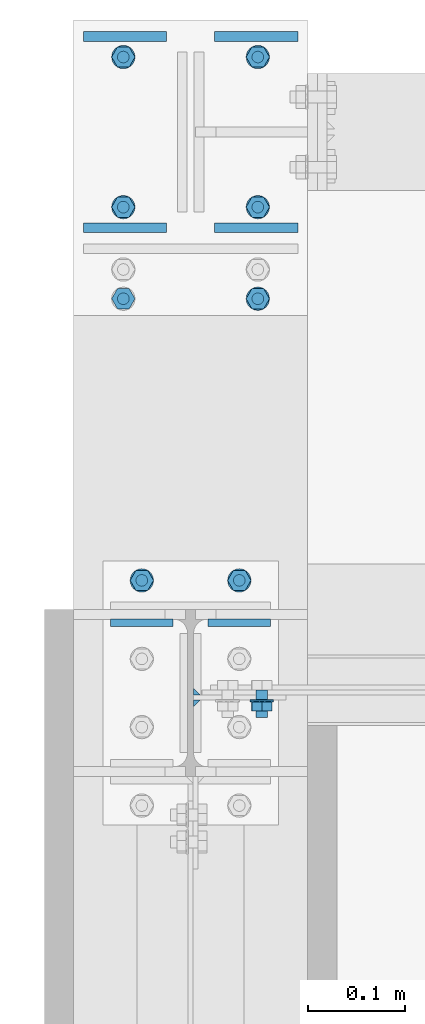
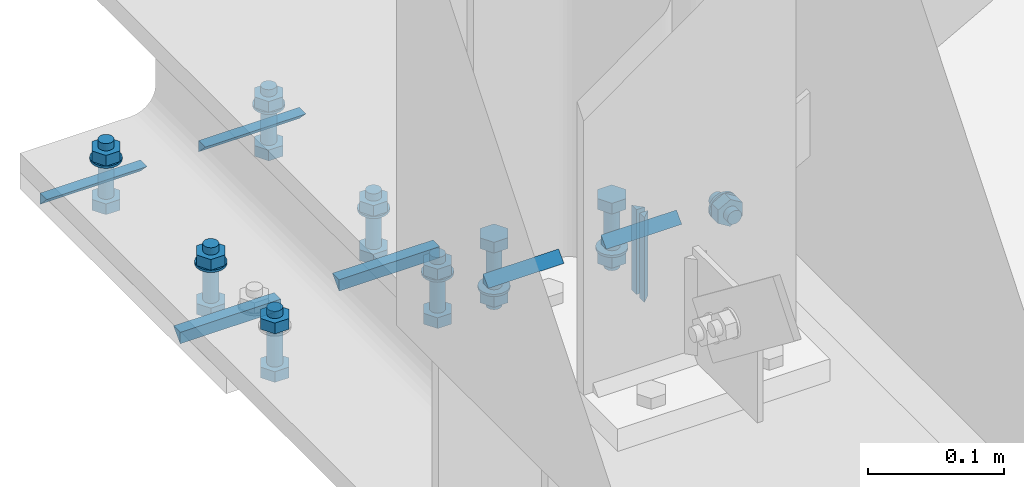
# One storey, part 41 of 66: 34 mechanical fasteners, 14 fasteners.
"""IFC4 building model written with IfcOpenShell, lengths in metres."""

from ifc_helpers import new_model, si_unit, frame, origin_with_axes, place, context, project, spatial, polyline, outline, extrude, type_object, element, save


model = new_model("IFC4")

# Units and contexts
model_context = context("Model", 3, precision=1e-05, world=origin_with_axes())
ifc_project = project(units=[si_unit("LENGTHUNIT", "METRE"), si_unit("AREAUNIT", "SQUARE_METRE"), si_unit("VOLUMEUNIT", "CUBIC_METRE"), si_unit("MASSUNIT", "GRAM", prefix="KILO"), si_unit("TIMEUNIT", "SECOND"), si_unit("PLANEANGLEUNIT", "RADIAN"), si_unit("SOLIDANGLEUNIT", "STERADIAN"), si_unit("THERMODYNAMICTEMPERATUREUNIT", "DEGREE_CELSIUS")], contexts=[model_context])

# Site, building, storey
placement_1 = place(None, origin_with_axes())
site = spatial("IfcSite", under=ifc_project, at=placement_1, Name="Italia", CompositionType="ELEMENT")
building = spatial("IfcBuilding", under=site, at=placement_1, Name="Uffici", CompositionType="ELEMENT")
storey_placement = place(None, frame((0.0, 0.0, 3.299999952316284), z_axis=(0.0, 0.0, 1.0), x_axis=(1.0, 0.0, 0.0)))
storey = spatial("IfcBuildingStorey", under=building, at=storey_placement, Name="Storey 1", CompositionType="ELEMENT", Elevation=3.299999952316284)

# Fasteners
fastener_type_1 = type_object("IfcFastenerType", Name="Collegamento 0106_0206", PredefinedType="WELD")
placement_2 = place(placement_1, origin_with_axes())
fastener_1_placement = place(placement_2, origin_with_axes())
element("IfcFastener", 1, at=fastener_1_placement, inside=storey, type_object=fastener_type_1, Name="Collegamento 0106_0206", context=model_context, shape_type="SweptSolid", body=[
    extrude(outline(polyline([(0.0, 0.0), (0.00792837, 0.00817347), (0.00792837, 0.0), (0.0, 0.0)])), frame((0.01795, 4.88262, 3.31995), z_axis=(1.0, 0.0, 0.0), x_axis=(0.0, 1.0, 0.0)), (0.0, 0.0, 1.0), 0.0641),
])
fastener_type_2 = type_object("IfcFastenerType", Name="Collegamento 0106_0206", PredefinedType="WELD")
fastener_2_placement = place(placement_2, origin_with_axes())
element("IfcFastener", 2, at=fastener_2_placement, inside=storey, type_object=fastener_type_2, Name="Collegamento 0106_0206", context=model_context, shape_type="SweptSolid", body=[
    extrude(outline(polyline([(0.0, 0.0), (0.00792837, 0.00817347), (0.00792837, 0.0), (0.0, 0.0)])), frame((-0.08205, 4.88262, 3.31995), z_axis=(1.0, 0.0, 0.0), x_axis=(0.0, 1.0, 0.0)), (0.0, 0.0, 1.0), 0.0641),
])
fastener_type_3 = type_object("IfcFastenerType", Name="Collegamento 0106_0206", PredefinedType="WELD")
fastener_3_placement = place(placement_2, origin_with_axes())
element("IfcFastener", 3, at=fastener_3_placement, inside=storey, type_object=fastener_type_3, Name="Collegamento 0106_0206", context=model_context, shape_type="SweptSolid", body=[
    extrude(outline(polyline([(0.0, 0.0), (0.00792837, 0.00817347), (0.00792837, 0.0), (0.0, 0.0)])), frame((0.01795, 4.88262, 3.31995), z_axis=(1.0, 0.0, 0.0), x_axis=(0.0, 1.0, 0.0)), (0.0, 0.0, 1.0), 0.0641),
])
fastener_type_4 = type_object("IfcFastenerType", Name="Collegamento 0106_0206", PredefinedType="WELD")
fastener_4_placement = place(placement_2, origin_with_axes())
element("IfcFastener", 4, at=fastener_4_placement, inside=storey, type_object=fastener_type_4, Name="Collegamento 0106_0206", context=model_context, shape_type="SweptSolid", body=[
    extrude(outline(polyline([(0.0, 0.0), (0.00792837, 0.00817347), (0.00792837, 0.0), (0.0, 0.0)])), frame((-0.08205, 4.88262, 3.31995), z_axis=(1.0, 0.0, 0.0), x_axis=(0.0, 1.0, 0.0)), (0.0, 0.0, 1.0), 0.0641),
])

# Mechanical fasteners
mechanical_fastener_type_1 = type_object("IfcMechanicalFastenerType", Name="Collegamento 0106_0206", PredefinedType="BOLT")
mechanical_fastener_1_placement = place(placement_2, origin_with_axes())
element("IfcMechanicalFastener", 5, at=mechanical_fastener_1_placement, inside=storey, type_object=mechanical_fastener_type_1, Name="Collegamento 0106_0206", NominalDiameter=0.0119999, context=model_context, shape_type="SweptSolid", body=[
    extrude(outline(polyline([(0.0, 0.0), (0.0, 0.012), (0.0103922, 0.018), (0.0207844, 0.012), (0.0207844, 0.0), (0.0103922, -0.006), (0.0, 0.0)])), frame((-0.044, 4.91961, 3.32), z_axis=(0.0, 0.0, 1.0), x_axis=(0.0, 1.0, 0.0)), (0.0, 0.0, 1.0), 0.00959992),
])
mechanical_fastener_type_2 = type_object("IfcMechanicalFastenerType", Name="Collegamento 0106_0206", PredefinedType="BOLT")
mechanical_fastener_2_placement = place(placement_2, origin_with_axes())
element("IfcMechanicalFastener", 6, at=mechanical_fastener_2_placement, inside=storey, type_object=mechanical_fastener_type_2, Name="Collegamento 0106_0206", NominalDiameter=0.012, context=model_context, shape_type="SweptSolid", body=[
    extrude(outline(polyline([(0.0, 0.0), (-0.000204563, -0.00155291), (-0.000803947, -0.003), (-0.00175762, -0.00424264), (-0.00300026, -0.00519615), (-0.00444698, -0.00579556), (-0.00600004, -0.006), (-0.0075531, -0.00579555), (-0.00899982, -0.00519615), (-0.0102425, -0.00424264), (-0.0111961, -0.003), (-0.0117955, -0.00155291), (-0.0120001, 0.0), (-0.0117955, 0.00155291), (-0.0111961, 0.003), (-0.0102425, 0.00424264), (-0.00899982, 0.00519615), (-0.0075531, 0.00579556), (-0.00600004, 0.006), (-0.00444698, 0.00579556), (-0.00300026, 0.00519615), (-0.00175762, 0.00424264), (-0.000803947, 0.003), (-0.000204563, 0.00155291), (0.0, 0.0)])), frame((-0.05, 4.936, 3.265), z_axis=(0.0, 0.0, 1.0), x_axis=(0.0, 1.0, 0.0)), (0.0, 0.0, 1.0), 0.0550001),
])
mechanical_fastener_type_3 = type_object("IfcMechanicalFastenerType", Name="Collegamento 0106_0206", PredefinedType="BOLT")
mechanical_fastener_3_placement = place(placement_2, origin_with_axes())
element("IfcMechanicalFastener", 7, at=mechanical_fastener_3_placement, inside=storey, type_object=mechanical_fastener_type_3, Name="Collegamento 0106_0206", NominalDiameter=0.0119999, context=model_context, shape_type="SweptSolid", body=[
    extrude(outline(polyline([(0.0, 0.0), (0.0, 0.012), (0.0103922, 0.018), (0.0207844, 0.012), (0.0207844, 0.0), (0.0103922, -0.006), (0.0, 0.0)])), frame((-0.044, 4.91961, 3.2714), z_axis=(0.0, 0.0, 1.0), x_axis=(0.0, 1.0, 0.0)), (0.0, 0.0, 1.0), 0.00959992),
])
mechanical_fastener_type_4 = type_object("IfcMechanicalFastenerType", Name="Collegamento 0106_0206", PredefinedType="BOLT")
mechanical_fastener_4_placement = place(placement_2, origin_with_axes())
element("IfcMechanicalFastener", 8, at=mechanical_fastener_4_placement, inside=storey, type_object=mechanical_fastener_type_4, Name="Collegamento 0106_0206", NominalDiameter=0.024, context=model_context, shape_type="SweptSolid", body=[
    extrude(outline(polyline([(0.0, 0.0), (-0.000409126, -0.00310583), (-0.00160789, -0.006), (-0.00351477, -0.00848528), (-0.00600004, -0.0103923), (-0.00889444, -0.0115911), (-0.0120001, -0.012), (-0.0151057, -0.0115911), (-0.0180001, -0.0103923), (-0.0204854, -0.00848528), (-0.0223923, -0.006), (-0.023591, -0.00310583), (-0.0240002, 0.0), (-0.023591, 0.00310583), (-0.0223923, 0.006), (-0.0204854, 0.00848528), (-0.0180001, 0.0103923), (-0.0151057, 0.0115911), (-0.0120001, 0.012), (-0.00889444, 0.0115911), (-0.00600004, 0.0103923), (-0.00351477, 0.00848528), (-0.00160789, 0.006), (-0.000409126, 0.00310583), (0.0, 0.0)])), frame((-0.05, 4.942, 3.281), z_axis=(0.0, 0.0, 1.0), x_axis=(0.0, 1.0, 0.0)), (0.0, 0.0, 1.0), 0.00200009),
])
mechanical_fastener_type_5 = type_object("IfcMechanicalFastenerType", Name="Collegamento 0106_0206", PredefinedType="BOLT")
mechanical_fastener_5_placement = place(placement_2, origin_with_axes())
element("IfcMechanicalFastener", 9, at=mechanical_fastener_5_placement, inside=storey, type_object=mechanical_fastener_type_5, Name="Collegamento 0106_0206", NominalDiameter=0.0119999, context=model_context, shape_type="SweptSolid", body=[
    extrude(outline(polyline([(0.0, 0.0), (0.0, 0.012), (0.0103922, 0.018), (0.0207844, 0.012), (0.0207844, 0.0), (0.0103922, -0.006), (0.0, 0.0)])), frame((0.056, 4.91961, 3.32), z_axis=(0.0, 0.0, 1.0), x_axis=(0.0, 1.0, 0.0)), (0.0, 0.0, 1.0), 0.00959992),
])
mechanical_fastener_type_6 = type_object("IfcMechanicalFastenerType", Name="Collegamento 0106_0206", PredefinedType="BOLT")
mechanical_fastener_6_placement = place(placement_2, origin_with_axes())
element("IfcMechanicalFastener", 10, at=mechanical_fastener_6_placement, inside=storey, type_object=mechanical_fastener_type_6, Name="Collegamento 0106_0206", NominalDiameter=0.012, context=model_context, shape_type="SweptSolid", body=[
    extrude(outline(polyline([(0.0, 0.0), (-0.000204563, -0.00155291), (-0.000803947, -0.003), (-0.00175762, -0.00424264), (-0.00300026, -0.00519615), (-0.00444698, -0.00579556), (-0.00600004, -0.006), (-0.0075531, -0.00579555), (-0.00899982, -0.00519615), (-0.0102425, -0.00424264), (-0.0111961, -0.003), (-0.0117955, -0.00155291), (-0.0120001, 0.0), (-0.0117955, 0.00155291), (-0.0111961, 0.003), (-0.0102425, 0.00424264), (-0.00899982, 0.00519615), (-0.0075531, 0.00579556), (-0.00600004, 0.006), (-0.00444698, 0.00579556), (-0.00300026, 0.00519615), (-0.00175762, 0.00424264), (-0.000803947, 0.003), (-0.000204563, 0.00155291), (0.0, 0.0)])), frame((0.05, 4.936, 3.265), z_axis=(0.0, 0.0, 1.0), x_axis=(0.0, 1.0, 0.0)), (0.0, 0.0, 1.0), 0.0550001),
])
mechanical_fastener_type_7 = type_object("IfcMechanicalFastenerType", Name="Collegamento 0106_0206", PredefinedType="BOLT")
mechanical_fastener_7_placement = place(placement_2, origin_with_axes())
element("IfcMechanicalFastener", 11, at=mechanical_fastener_7_placement, inside=storey, type_object=mechanical_fastener_type_7, Name="Collegamento 0106_0206", NominalDiameter=0.0119999, context=model_context, shape_type="SweptSolid", body=[
    extrude(outline(polyline([(0.0, 0.0), (0.0, 0.012), (0.0103922, 0.018), (0.0207844, 0.012), (0.0207844, 0.0), (0.0103922, -0.006), (0.0, 0.0)])), frame((0.056, 4.91961, 3.2714), z_axis=(0.0, 0.0, 1.0), x_axis=(0.0, 1.0, 0.0)), (0.0, 0.0, 1.0), 0.00959992),
])
mechanical_fastener_type_8 = type_object("IfcMechanicalFastenerType", Name="Collegamento 0106_0206", PredefinedType="BOLT")
mechanical_fastener_8_placement = place(placement_2, origin_with_axes())
element("IfcMechanicalFastener", 12, at=mechanical_fastener_8_placement, inside=storey, type_object=mechanical_fastener_type_8, Name="Collegamento 0106_0206", NominalDiameter=0.024, context=model_context, shape_type="SweptSolid", body=[
    extrude(outline(polyline([(0.0, 0.0), (-0.000409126, -0.00310583), (-0.00160789, -0.006), (-0.00351477, -0.00848528), (-0.00600004, -0.0103923), (-0.00889444, -0.0115911), (-0.0120001, -0.012), (-0.0151057, -0.0115911), (-0.0180001, -0.0103923), (-0.0204854, -0.00848528), (-0.0223923, -0.006), (-0.023591, -0.00310583), (-0.0240002, 0.0), (-0.023591, 0.00310583), (-0.0223923, 0.006), (-0.0204854, 0.00848528), (-0.0180001, 0.0103923), (-0.0151057, 0.0115911), (-0.0120001, 0.012), (-0.00889444, 0.0115911), (-0.00600004, 0.0103923), (-0.00351477, 0.00848528), (-0.00160789, 0.006), (-0.000409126, 0.00310583), (0.0, 0.0)])), frame((0.05, 4.942, 3.281), z_axis=(0.0, 0.0, 1.0), x_axis=(0.0, 1.0, 0.0)), (0.0, 0.0, 1.0), 0.00200009),
])
mechanical_fastener_type_9 = type_object("IfcMechanicalFastenerType", Name="Collegamento 0106_0207", PredefinedType="BOLT")
mechanical_fastener_9_placement = place(placement_2, origin_with_axes())
element("IfcMechanicalFastener", 13, at=mechanical_fastener_9_placement, inside=storey, type_object=mechanical_fastener_type_9, Name="Collegamento 0106_0207", NominalDiameter=0.012, context=model_context, shape_type="SweptSolid", body=[
    extrude(outline(polyline([(0.0, 0.0), (-0.000204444, -0.00155282), (-0.000803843, -0.00300002), (-0.00175735, -0.00424266), (-0.003, -0.00519609), (-0.00444708, -0.00579548), (-0.006, -0.00600004), (-0.00755291, -0.00579548), (-0.009, -0.00519609), (-0.0102426, -0.00424266), (-0.0111962, -0.00300002), (-0.0117956, -0.00155282), (-0.012, 0.0), (-0.0117956, 0.00155282), (-0.0111962, 0.00300002), (-0.0102426, 0.00424266), (-0.009, 0.00519609), (-0.00755291, 0.00579548), (-0.006, 0.00600004), (-0.00444708, 0.00579548), (-0.003, 0.00519609), (-0.00175735, 0.00424266), (-0.000803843, 0.00300002), (-0.000204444, 0.00155282), (0.0, 0.0)])), frame((0.0670674, 4.7895, 3.38584), z_axis=(0.0, 1.0, 0.0), x_axis=(-1.0, 0.0, 0.0)), (0.0, 0.0, 1.0), 0.0279999),
])
mechanical_fastener_type_10 = type_object("IfcMechanicalFastenerType", Name="Collegamento 0106_0207", PredefinedType="BOLT")
mechanical_fastener_10_placement = place(placement_2, origin_with_axes())
element("IfcMechanicalFastener", 14, at=mechanical_fastener_10_placement, inside=storey, type_object=mechanical_fastener_type_10, Name="Collegamento 0106_0207", NominalDiameter=0.0119999, context=model_context, shape_type="SweptSolid", body=[
    extrude(outline(polyline([(0.0, 0.0), (0.0105101, -0.00579095), (0.0207805, 0.000415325), (0.0205407, 0.012413), (0.0100306, 0.0182042), (-0.000239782, 0.0119977), (0.0, 0.0)])), frame((0.0833377, 4.7959, 3.37964), z_axis=(0.0, 1.0, 0.0), x_axis=(-1.0, 0.0, 0.0)), (0.0, 0.0, 1.0), 0.00960016),
])
mechanical_fastener_type_11 = type_object("IfcMechanicalFastenerType", Name="Collegamento 0106_0207", PredefinedType="BOLT")
mechanical_fastener_11_placement = place(placement_2, origin_with_axes())
element("IfcMechanicalFastener", 15, at=mechanical_fastener_11_placement, inside=storey, type_object=mechanical_fastener_type_11, Name="Collegamento 0106_0207", NominalDiameter=0.024, context=model_context, shape_type="SweptSolid", body=[
    extrude(outline(polyline([(0.0, 0.0), (-0.000408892, -0.00310588), (-0.0016077, -0.00600004), (-0.00351472, -0.00848532), (-0.006, -0.0103922), (-0.00889418, -0.0115912), (-0.012, -0.0120001), (-0.0151058, -0.0115912), (-0.018, -0.0103922), (-0.0204853, -0.00848532), (-0.0223923, -0.00600004), (-0.0235911, -0.00310588), (-0.024, 0.0), (-0.0235911, 0.00310588), (-0.0223923, 0.00600004), (-0.0204853, 0.00848532), (-0.018, 0.0103922), (-0.0151058, 0.0115912), (-0.012, 0.0120001), (-0.00889418, 0.0115912), (-0.006, 0.0103922), (-0.00351471, 0.00848532), (-0.00160769, 0.00600004), (-0.000408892, 0.00310588), (0.0, 0.0)])), frame((0.0610674, 4.8055, 3.38584), z_axis=(0.0, 1.0, 0.0), x_axis=(-1.0, 0.0, 0.0)), (0.0, 0.0, 1.0), 0.00199986),
])

# Fasteners
fastener_type_5 = type_object("IfcFastenerType", Name="Collegamento 0106_0207", PredefinedType="WELD")
fastener_5_placement = place(placement_2, origin_with_axes())
element("IfcFastener", 16, at=fastener_5_placement, inside=storey, type_object=fastener_type_5, Name="Collegamento 0106_0207", context=model_context, shape_type="SweptSolid", body=[
    extrude(outline(polyline([(0.0, 0.0), (0.00695801, 0.00717336), (0.00695801, 0.0), (0.0, 0.0)])), frame((0.00295001, 4.80059, 3.40328), z_axis=(-2.38644162e-07, 0.0, -1.0), x_axis=(0.0, 1.0, 0.0)), (0.0, 0.0, 1.0), 0.0760999),
])
fastener_type_6 = type_object("IfcFastenerType", Name="Collegamento 0106_0207", PredefinedType="WELD")
fastener_6_placement = place(placement_2, origin_with_axes())
element("IfcFastener", 17, at=fastener_6_placement, inside=storey, type_object=fastener_type_6, Name="Collegamento 0106_0207", context=model_context, shape_type="SweptSolid", body=[
    extrude(outline(polyline([(0.0, 0.0), (-0.00695801, -0.00717336), (-0.00695801, 0.0), (0.0, 0.0)])), frame((0.00294999, 4.81941, 3.32718), z_axis=(2.38644162e-07, 0.0, 1.0), x_axis=(0.0, 1.0, 0.0)), (0.0, 0.0, 1.0), 0.0760999),
])
fastener_type_7 = type_object("IfcFastenerType", Name="Collegamenti 0111_0011 0112_0012 0113_0013 0114_0014 0115_0015", PredefinedType="WELD")
fastener_7_placement = place(placement_2, origin_with_axes())
element("IfcFastener", 18, at=fastener_7_placement, inside=storey, type_object=fastener_type_7, Name="Collegamenti 0111_0011 0112_0012 0113_0013 0114_0014 0115_0015", context=model_context, shape_type="SweptSolid", body=[
    extrude(outline(polyline([(0.0, 0.0), (-0.00986814, -0.0101733), (-0.00986814, 0.0), (0.0, 0.0)])), frame((0.11005, 5.48318, 3.04505), z_axis=(-1.0, 0.0, 0.0), x_axis=(0.0, -1.0, 0.0)), (0.0, 0.0, 1.0), 0.08535),
])
fastener_type_8 = type_object("IfcFastenerType", Name="Collegamenti 0111_0011 0112_0012 0113_0013 0114_0014 0115_0015", PredefinedType="WELD")
fastener_8_placement = place(placement_2, origin_with_axes())
element("IfcFastener", 19, at=fastener_8_placement, inside=storey, type_object=fastener_type_8, Name="Collegamenti 0111_0011 0112_0012 0113_0013 0114_0014 0115_0015", context=model_context, shape_type="SweptSolid", body=[
    extrude(outline(polyline([(0.0, 0.0), (-0.00986814, -0.0101733), (-0.00986814, 0.0), (0.0, 0.0)])), frame((0.0247, 5.29682, 3.04505), z_axis=(1.0, 0.0, 0.0), x_axis=(0.0, 1.0, 0.0)), (0.0, 0.0, 1.0), 0.08535),
])
fastener_type_9 = type_object("IfcFastenerType", Name="Collegamenti 0111_0011 0112_0012 0113_0013 0114_0014 0115_0015", PredefinedType="WELD")
fastener_9_placement = place(placement_2, origin_with_axes())
element("IfcFastener", 20, at=fastener_9_placement, inside=storey, type_object=fastener_type_9, Name="Collegamenti 0111_0011 0112_0012 0113_0013 0114_0014 0115_0015", context=model_context, shape_type="SweptSolid", body=[
    extrude(outline(polyline([(0.0, 0.0), (-0.00986814, -0.0101733), (-0.00986814, 0.0), (0.0, 0.0)])), frame((-0.11005, 5.29682, 3.04505), z_axis=(1.0, 0.0, 0.0), x_axis=(0.0, 1.0, 0.0)), (0.0, 0.0, 1.0), 0.08535),
])
fastener_type_10 = type_object("IfcFastenerType", Name="Collegamenti 0111_0011 0112_0012 0113_0013 0114_0014 0115_0015", PredefinedType="WELD")
fastener_10_placement = place(placement_2, origin_with_axes())
element("IfcFastener", 21, at=fastener_10_placement, inside=storey, type_object=fastener_type_10, Name="Collegamenti 0111_0011 0112_0012 0113_0013 0114_0014 0115_0015", context=model_context, shape_type="SweptSolid", body=[
    extrude(outline(polyline([(0.0, 0.0), (-0.00986814, -0.0101733), (-0.00986814, 0.0), (0.0, 0.0)])), frame((-0.0247, 5.48318, 3.04505), z_axis=(-1.0, 0.0, 0.0), x_axis=(0.0, -1.0, 0.0)), (0.0, 0.0, 1.0), 0.08535),
])
fastener_type_11 = type_object("IfcFastenerType", Name="Collegamenti 0111_0011 0112_0012 0113_0013 0114_0014 0115_0015", PredefinedType="WELD")
fastener_11_placement = place(placement_2, origin_with_axes())
element("IfcFastener", 22, at=fastener_11_placement, inside=storey, type_object=fastener_type_11, Name="Collegamenti 0111_0011 0112_0012 0113_0013 0114_0014 0115_0015", context=model_context, shape_type="SweptSolid", body=[
    extrude(outline(polyline([(0.0, 0.0), (-0.00986814, -0.0101733), (-0.00986814, 0.0), (0.0, 0.0)])), frame((0.11005, 5.48318, 3.04505), z_axis=(-1.0, 0.0, 0.0), x_axis=(0.0, -1.0, 0.0)), (0.0, 0.0, 1.0), 0.08535),
])
fastener_type_12 = type_object("IfcFastenerType", Name="Collegamenti 0111_0011 0112_0012 0113_0013 0114_0014 0115_0015", PredefinedType="WELD")
fastener_12_placement = place(placement_2, origin_with_axes())
element("IfcFastener", 23, at=fastener_12_placement, inside=storey, type_object=fastener_type_12, Name="Collegamenti 0111_0011 0112_0012 0113_0013 0114_0014 0115_0015", context=model_context, shape_type="SweptSolid", body=[
    extrude(outline(polyline([(0.0, 0.0), (-0.00986814, -0.0101733), (-0.00986814, 0.0), (0.0, 0.0)])), frame((0.0247, 5.29682, 3.04505), z_axis=(1.0, 0.0, 0.0), x_axis=(0.0, 1.0, 0.0)), (0.0, 0.0, 1.0), 0.08535),
])
fastener_type_13 = type_object("IfcFastenerType", Name="Collegamenti 0111_0011 0112_0012 0113_0013 0114_0014 0115_0015", PredefinedType="WELD")
fastener_13_placement = place(placement_2, origin_with_axes())
element("IfcFastener", 24, at=fastener_13_placement, inside=storey, type_object=fastener_type_13, Name="Collegamenti 0111_0011 0112_0012 0113_0013 0114_0014 0115_0015", context=model_context, shape_type="SweptSolid", body=[
    extrude(outline(polyline([(0.0, 0.0), (-0.00986814, -0.0101733), (-0.00986814, 0.0), (0.0, 0.0)])), frame((-0.11005, 5.29682, 3.04505), z_axis=(1.0, 0.0, 0.0), x_axis=(0.0, 1.0, 0.0)), (0.0, 0.0, 1.0), 0.08535),
])
fastener_type_14 = type_object("IfcFastenerType", Name="Collegamenti 0111_0011 0112_0012 0113_0013 0114_0014 0115_0015", PredefinedType="WELD")
fastener_14_placement = place(placement_2, origin_with_axes())
element("IfcFastener", 25, at=fastener_14_placement, inside=storey, type_object=fastener_type_14, Name="Collegamenti 0111_0011 0112_0012 0113_0013 0114_0014 0115_0015", context=model_context, shape_type="SweptSolid", body=[
    extrude(outline(polyline([(0.0, 0.0), (-0.00986814, -0.0101733), (-0.00986814, 0.0), (0.0, 0.0)])), frame((-0.0247, 5.48318, 3.04505), z_axis=(-1.0, 0.0, 0.0), x_axis=(0.0, -1.0, 0.0)), (0.0, 0.0, 1.0), 0.08535),
])

# Mechanical fasteners
mechanical_fastener_type_12 = type_object("IfcMechanicalFastenerType", Name="Collegamenti 0111_0011 0112_0012 0113_0013 0114_0014 0115_0015", PredefinedType="BOLT")
mechanical_fastener_12_placement = place(placement_2, origin_with_axes())
element("IfcMechanicalFastener", 26, at=mechanical_fastener_12_placement, inside=storey, type_object=mechanical_fastener_type_12, Name="Collegamenti 0111_0011 0112_0012 0113_0013 0114_0014 0115_0015", NominalDiameter=0.0119999, context=model_context, shape_type="SweptSolid", body=[
    extrude(outline(polyline([(0.0, 0.0), (0.0, 0.012), (0.0103922, 0.018), (0.0207849, 0.012), (0.0207849, 0.0), (0.0103922, -0.006), (0.0, 0.0)])), frame((0.063, 5.30261, 3.045), z_axis=(0.0, 0.0, -1.0), x_axis=(0.0, 1.0, 0.0)), (0.0, 0.0, 1.0), 0.00959992),
])
mechanical_fastener_type_13 = type_object("IfcMechanicalFastenerType", Name="Collegamenti 0111_0011 0112_0012 0113_0013 0114_0014 0115_0015", PredefinedType="BOLT")
mechanical_fastener_13_placement = place(placement_2, origin_with_axes())
element("IfcMechanicalFastener", 27, at=mechanical_fastener_13_placement, inside=storey, type_object=mechanical_fastener_type_13, Name="Collegamenti 0111_0011 0112_0012 0113_0013 0114_0014 0115_0015", NominalDiameter=0.012, context=model_context, shape_type="SweptSolid", body=[
    extrude(outline(polyline([(0.0, 0.0), (-0.000204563, -0.00155292), (-0.000803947, -0.003), (-0.00175762, -0.00424264), (-0.00300026, -0.00519615), (-0.00444698, -0.00579555), (-0.00600004, -0.006), (-0.0075531, -0.00579555), (-0.00899982, -0.00519615), (-0.0102425, -0.00424264), (-0.0111961, -0.003), (-0.0117955, -0.00155292), (-0.0120001, 0.0), (-0.0117955, 0.00155292), (-0.0111961, 0.003), (-0.0102425, 0.00424264), (-0.00899982, 0.00519615), (-0.0075531, 0.00579555), (-0.00600004, 0.006), (-0.00444698, 0.00579555), (-0.00300026, 0.00519615), (-0.00175762, 0.00424264), (-0.000803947, 0.003), (-0.000204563, 0.00155291), (0.0, 0.0)])), frame((0.069, 5.319, 3.095), z_axis=(0.0, 0.0, -1.0), x_axis=(0.0, 1.0, 0.0)), (0.0, 0.0, 1.0), 0.0500002),
])
mechanical_fastener_type_14 = type_object("IfcMechanicalFastenerType", Name="Collegamenti 0111_0011 0112_0012 0113_0013 0114_0014 0115_0015", PredefinedType="BOLT")
mechanical_fastener_14_placement = place(placement_2, origin_with_axes())
element("IfcMechanicalFastener", 28, at=mechanical_fastener_14_placement, inside=storey, type_object=mechanical_fastener_type_14, Name="Collegamenti 0111_0011 0112_0012 0113_0013 0114_0014 0115_0015", NominalDiameter=0.0119999, context=model_context, shape_type="SweptSolid", body=[
    extrude(outline(polyline([(0.0, 0.0), (0.0, 0.012), (0.0103922, 0.018), (0.0207849, 0.012), (0.0207849, 0.0), (0.0103922, -0.006), (0.0, 0.0)])), frame((0.063, 5.30261, 3.0886), z_axis=(0.0, 0.0, -1.0), x_axis=(0.0, 1.0, 0.0)), (0.0, 0.0, 1.0), 0.00959992),
])
mechanical_fastener_type_15 = type_object("IfcMechanicalFastenerType", Name="Collegamenti 0111_0011 0112_0012 0113_0013 0114_0014 0115_0015", PredefinedType="BOLT")
mechanical_fastener_15_placement = place(placement_2, origin_with_axes())
element("IfcMechanicalFastener", 29, at=mechanical_fastener_15_placement, inside=storey, type_object=mechanical_fastener_type_15, Name="Collegamenti 0111_0011 0112_0012 0113_0013 0114_0014 0115_0015", NominalDiameter=0.024, context=model_context, shape_type="SweptSolid", body=[
    extrude(outline(polyline([(0.0, 0.0), (-0.000409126, -0.00310583), (-0.00160789, -0.006), (-0.00351477, -0.00848528), (-0.00600004, -0.0103923), (-0.00889444, -0.0115911), (-0.0120001, -0.012), (-0.0151057, -0.0115911), (-0.0180001, -0.0103923), (-0.0204854, -0.00848528), (-0.0223923, -0.006), (-0.023591, -0.00310583), (-0.0240002, 0.0), (-0.023591, 0.00310583), (-0.0223923, 0.006), (-0.0204854, 0.00848528), (-0.0180001, 0.0103923), (-0.0151057, 0.0115911), (-0.0120001, 0.012), (-0.00889444, 0.0115911), (-0.00600004, 0.0103923), (-0.00351477, 0.00848528), (-0.00160789, 0.006), (-0.000409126, 0.00310583), (0.0, 0.0)])), frame((0.069, 5.325, 3.079), z_axis=(0.0, 0.0, -1.0), x_axis=(0.0, 1.0, 0.0)), (0.0, 0.0, 1.0), 0.00200009),
])
mechanical_fastener_type_16 = type_object("IfcMechanicalFastenerType", Name="Collegamenti 0111_0011 0112_0012 0113_0013 0114_0014 0115_0015", PredefinedType="BOLT")
mechanical_fastener_16_placement = place(placement_2, origin_with_axes())
element("IfcMechanicalFastener", 30, at=mechanical_fastener_16_placement, inside=storey, type_object=mechanical_fastener_type_16, Name="Collegamenti 0111_0011 0112_0012 0113_0013 0114_0014 0115_0015", NominalDiameter=0.0119999, context=model_context, shape_type="SweptSolid", body=[
    extrude(outline(polyline([(0.0, 0.0), (0.0, 0.012), (0.0103922, 0.018), (0.0207849, 0.012), (0.0207849, 0.0), (0.0103922, -0.006), (0.0, 0.0)])), frame((-0.075, 5.30261, 3.045), z_axis=(0.0, 0.0, -1.0), x_axis=(0.0, 1.0, 0.0)), (0.0, 0.0, 1.0), 0.00959992),
])
mechanical_fastener_type_17 = type_object("IfcMechanicalFastenerType", Name="Collegamenti 0111_0011 0112_0012 0113_0013 0114_0014 0115_0015", PredefinedType="BOLT")
mechanical_fastener_17_placement = place(placement_2, origin_with_axes())
element("IfcMechanicalFastener", 31, at=mechanical_fastener_17_placement, inside=storey, type_object=mechanical_fastener_type_17, Name="Collegamenti 0111_0011 0112_0012 0113_0013 0114_0014 0115_0015", NominalDiameter=0.012, context=model_context, shape_type="SweptSolid", body=[
    extrude(outline(polyline([(0.0, 0.0), (-0.000204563, -0.00155292), (-0.000803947, -0.003), (-0.00175762, -0.00424264), (-0.00300026, -0.00519615), (-0.00444698, -0.00579555), (-0.00600004, -0.006), (-0.0075531, -0.00579555), (-0.00899982, -0.00519615), (-0.0102425, -0.00424264), (-0.0111961, -0.003), (-0.0117955, -0.00155292), (-0.0120001, 0.0), (-0.0117955, 0.00155292), (-0.0111961, 0.003), (-0.0102425, 0.00424264), (-0.00899982, 0.00519615), (-0.0075531, 0.00579555), (-0.00600004, 0.006), (-0.00444698, 0.00579555), (-0.00300026, 0.00519615), (-0.00175762, 0.00424264), (-0.000803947, 0.003), (-0.000204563, 0.00155291), (0.0, 0.0)])), frame((-0.069, 5.319, 3.095), z_axis=(0.0, 0.0, -1.0), x_axis=(0.0, 1.0, 0.0)), (0.0, 0.0, 1.0), 0.0500002),
])
mechanical_fastener_type_18 = type_object("IfcMechanicalFastenerType", Name="Collegamenti 0111_0011 0112_0012 0113_0013 0114_0014 0115_0015", PredefinedType="BOLT")
mechanical_fastener_18_placement = place(placement_2, origin_with_axes())
element("IfcMechanicalFastener", 32, at=mechanical_fastener_18_placement, inside=storey, type_object=mechanical_fastener_type_18, Name="Collegamenti 0111_0011 0112_0012 0113_0013 0114_0014 0115_0015", NominalDiameter=0.0119999, context=model_context, shape_type="SweptSolid", body=[
    extrude(outline(polyline([(0.0, 0.0), (0.0, 0.012), (0.0103922, 0.018), (0.0207849, 0.012), (0.0207849, 0.0), (0.0103922, -0.006), (0.0, 0.0)])), frame((-0.075, 5.30261, 3.0886), z_axis=(0.0, 0.0, -1.0), x_axis=(0.0, 1.0, 0.0)), (0.0, 0.0, 1.0), 0.00959992),
])
mechanical_fastener_type_19 = type_object("IfcMechanicalFastenerType", Name="Collegamenti 0111_0011 0112_0012 0113_0013 0114_0014 0115_0015", PredefinedType="BOLT")
mechanical_fastener_19_placement = place(placement_2, origin_with_axes())
element("IfcMechanicalFastener", 33, at=mechanical_fastener_19_placement, inside=storey, type_object=mechanical_fastener_type_19, Name="Collegamenti 0111_0011 0112_0012 0113_0013 0114_0014 0115_0015", NominalDiameter=0.024, context=model_context, shape_type="SweptSolid", body=[
    extrude(outline(polyline([(0.0, 0.0), (-0.000409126, -0.00310583), (-0.00160789, -0.006), (-0.00351477, -0.00848528), (-0.00600004, -0.0103923), (-0.00889444, -0.0115911), (-0.0120001, -0.012), (-0.0151057, -0.0115911), (-0.0180001, -0.0103923), (-0.0204854, -0.00848528), (-0.0223923, -0.006), (-0.023591, -0.00310583), (-0.0240002, 0.0), (-0.023591, 0.00310583), (-0.0223923, 0.006), (-0.0204854, 0.00848528), (-0.0180001, 0.0103923), (-0.0151057, 0.0115911), (-0.0120001, 0.012), (-0.00889444, 0.0115911), (-0.00600004, 0.0103923), (-0.00351477, 0.00848528), (-0.00160789, 0.006), (-0.000409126, 0.00310583), (0.0, 0.0)])), frame((-0.069, 5.325, 3.079), z_axis=(0.0, 0.0, -1.0), x_axis=(0.0, 1.0, 0.0)), (0.0, 0.0, 1.0), 0.00200009),
])
mechanical_fastener_type_20 = type_object("IfcMechanicalFastenerType", Name="Collegamenti 0111_0011 0112_0012 0113_0013 0114_0014 0115_0015", PredefinedType="BOLT")
mechanical_fastener_20_placement = place(placement_2, origin_with_axes())
element("IfcMechanicalFastener", 34, at=mechanical_fastener_20_placement, inside=storey, type_object=mechanical_fastener_type_20, Name="Collegamenti 0111_0011 0112_0012 0113_0013 0114_0014 0115_0015", NominalDiameter=0.0119999, context=model_context, shape_type="SweptSolid", body=[
    extrude(outline(polyline([(0.0, 0.0), (0.0, 0.012), (0.0103927, 0.018), (0.0207849, 0.012), (0.0207849, 0.0), (0.0103927, -0.006), (0.0, 0.0)])), frame((0.063, 5.45661, 3.045), z_axis=(0.0, 0.0, -1.0), x_axis=(0.0, 1.0, 0.0)), (0.0, 0.0, 1.0), 0.00959992),
])
mechanical_fastener_type_21 = type_object("IfcMechanicalFastenerType", Name="Collegamenti 0111_0011 0112_0012 0113_0013 0114_0014 0115_0015", PredefinedType="BOLT")
mechanical_fastener_21_placement = place(placement_2, origin_with_axes())
element("IfcMechanicalFastener", 35, at=mechanical_fastener_21_placement, inside=storey, type_object=mechanical_fastener_type_21, Name="Collegamenti 0111_0011 0112_0012 0113_0013 0114_0014 0115_0015", NominalDiameter=0.012, context=model_context, shape_type="SweptSolid", body=[
    extrude(outline(polyline([(0.0, 0.0), (-0.000204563, -0.00155292), (-0.000803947, -0.003), (-0.00175762, -0.00424264), (-0.00300026, -0.00519615), (-0.00444698, -0.00579555), (-0.00600004, -0.006), (-0.0075531, -0.00579555), (-0.00899982, -0.00519615), (-0.0102425, -0.00424264), (-0.0111961, -0.003), (-0.0117955, -0.00155292), (-0.0120001, 0.0), (-0.0117955, 0.00155292), (-0.0111961, 0.003), (-0.0102425, 0.00424264), (-0.00899982, 0.00519615), (-0.0075531, 0.00579555), (-0.00600004, 0.006), (-0.00444698, 0.00579555), (-0.00300026, 0.00519615), (-0.00175762, 0.00424264), (-0.000803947, 0.003), (-0.000204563, 0.00155291), (0.0, 0.0)])), frame((0.069, 5.473, 3.095), z_axis=(0.0, 0.0, -1.0), x_axis=(0.0, 1.0, 0.0)), (0.0, 0.0, 1.0), 0.0500002),
])
mechanical_fastener_type_22 = type_object("IfcMechanicalFastenerType", Name="Collegamenti 0111_0011 0112_0012 0113_0013 0114_0014 0115_0015", PredefinedType="BOLT")
mechanical_fastener_22_placement = place(placement_2, origin_with_axes())
element("IfcMechanicalFastener", 36, at=mechanical_fastener_22_placement, inside=storey, type_object=mechanical_fastener_type_22, Name="Collegamenti 0111_0011 0112_0012 0113_0013 0114_0014 0115_0015", NominalDiameter=0.0119999, context=model_context, shape_type="SweptSolid", body=[
    extrude(outline(polyline([(0.0, 0.0), (0.0, 0.012), (0.0103927, 0.018), (0.0207849, 0.012), (0.0207849, 0.0), (0.0103927, -0.006), (0.0, 0.0)])), frame((0.063, 5.45661, 3.0886), z_axis=(0.0, 0.0, -1.0), x_axis=(0.0, 1.0, 0.0)), (0.0, 0.0, 1.0), 0.00959992),
])
mechanical_fastener_type_23 = type_object("IfcMechanicalFastenerType", Name="Collegamenti 0111_0011 0112_0012 0113_0013 0114_0014 0115_0015", PredefinedType="BOLT")
mechanical_fastener_23_placement = place(placement_2, origin_with_axes())
element("IfcMechanicalFastener", 37, at=mechanical_fastener_23_placement, inside=storey, type_object=mechanical_fastener_type_23, Name="Collegamenti 0111_0011 0112_0012 0113_0013 0114_0014 0115_0015", NominalDiameter=0.024, context=model_context, shape_type="SweptSolid", body=[
    extrude(outline(polyline([(0.0, 0.0), (-0.000409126, -0.00310583), (-0.00160789, -0.006), (-0.00351477, -0.00848528), (-0.00600004, -0.0103923), (-0.00889444, -0.0115911), (-0.0120001, -0.012), (-0.0151057, -0.0115911), (-0.0180001, -0.0103923), (-0.0204854, -0.00848528), (-0.0223923, -0.006), (-0.023591, -0.00310583), (-0.0240002, 0.0), (-0.023591, 0.00310583), (-0.0223923, 0.006), (-0.0204854, 0.00848528), (-0.0180001, 0.0103923), (-0.0151057, 0.0115911), (-0.0120001, 0.012), (-0.00889444, 0.0115911), (-0.00600004, 0.0103923), (-0.00351477, 0.00848528), (-0.00160789, 0.006), (-0.000409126, 0.00310583), (0.0, 0.0)])), frame((0.069, 5.479, 3.079), z_axis=(0.0, 0.0, -1.0), x_axis=(0.0, 1.0, 0.0)), (0.0, 0.0, 1.0), 0.00200009),
])
mechanical_fastener_type_24 = type_object("IfcMechanicalFastenerType", Name="Collegamenti 0111_0011 0112_0012 0113_0013 0114_0014 0115_0015", PredefinedType="BOLT")
mechanical_fastener_24_placement = place(placement_2, origin_with_axes())
element("IfcMechanicalFastener", 38, at=mechanical_fastener_24_placement, inside=storey, type_object=mechanical_fastener_type_24, Name="Collegamenti 0111_0011 0112_0012 0113_0013 0114_0014 0115_0015", NominalDiameter=0.0119999, context=model_context, shape_type="SweptSolid", body=[
    extrude(outline(polyline([(0.0, 0.0), (0.0, 0.012), (0.0103927, 0.018), (0.0207849, 0.012), (0.0207849, 0.0), (0.0103927, -0.006), (0.0, 0.0)])), frame((-0.075, 5.45661, 3.045), z_axis=(0.0, 0.0, -1.0), x_axis=(0.0, 1.0, 0.0)), (0.0, 0.0, 1.0), 0.00959992),
])
mechanical_fastener_type_25 = type_object("IfcMechanicalFastenerType", Name="Collegamenti 0111_0011 0112_0012 0113_0013 0114_0014 0115_0015", PredefinedType="BOLT")
mechanical_fastener_25_placement = place(placement_2, origin_with_axes())
element("IfcMechanicalFastener", 39, at=mechanical_fastener_25_placement, inside=storey, type_object=mechanical_fastener_type_25, Name="Collegamenti 0111_0011 0112_0012 0113_0013 0114_0014 0115_0015", NominalDiameter=0.012, context=model_context, shape_type="SweptSolid", body=[
    extrude(outline(polyline([(0.0, 0.0), (-0.000204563, -0.00155292), (-0.000803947, -0.003), (-0.00175762, -0.00424264), (-0.00300026, -0.00519615), (-0.00444698, -0.00579555), (-0.00600004, -0.006), (-0.0075531, -0.00579555), (-0.00899982, -0.00519615), (-0.0102425, -0.00424264), (-0.0111961, -0.003), (-0.0117955, -0.00155292), (-0.0120001, 0.0), (-0.0117955, 0.00155292), (-0.0111961, 0.003), (-0.0102425, 0.00424264), (-0.00899982, 0.00519615), (-0.0075531, 0.00579555), (-0.00600004, 0.006), (-0.00444698, 0.00579555), (-0.00300026, 0.00519615), (-0.00175762, 0.00424264), (-0.000803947, 0.003), (-0.000204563, 0.00155291), (0.0, 0.0)])), frame((-0.069, 5.473, 3.095), z_axis=(0.0, 0.0, -1.0), x_axis=(0.0, 1.0, 0.0)), (0.0, 0.0, 1.0), 0.0500002),
])
mechanical_fastener_type_26 = type_object("IfcMechanicalFastenerType", Name="Collegamenti 0111_0011 0112_0012 0113_0013 0114_0014 0115_0015", PredefinedType="BOLT")
mechanical_fastener_26_placement = place(placement_2, origin_with_axes())
element("IfcMechanicalFastener", 40, at=mechanical_fastener_26_placement, inside=storey, type_object=mechanical_fastener_type_26, Name="Collegamenti 0111_0011 0112_0012 0113_0013 0114_0014 0115_0015", NominalDiameter=0.0119999, context=model_context, shape_type="SweptSolid", body=[
    extrude(outline(polyline([(0.0, 0.0), (0.0, 0.012), (0.0103927, 0.018), (0.0207849, 0.012), (0.0207849, 0.0), (0.0103927, -0.006), (0.0, 0.0)])), frame((-0.075, 5.45661, 3.0886), z_axis=(0.0, 0.0, -1.0), x_axis=(0.0, 1.0, 0.0)), (0.0, 0.0, 1.0), 0.00959992),
])
mechanical_fastener_type_27 = type_object("IfcMechanicalFastenerType", Name="Collegamenti 0111_0011 0112_0012 0113_0013 0114_0014 0115_0015", PredefinedType="BOLT")
mechanical_fastener_27_placement = place(placement_2, origin_with_axes())
element("IfcMechanicalFastener", 41, at=mechanical_fastener_27_placement, inside=storey, type_object=mechanical_fastener_type_27, Name="Collegamenti 0111_0011 0112_0012 0113_0013 0114_0014 0115_0015", NominalDiameter=0.024, context=model_context, shape_type="SweptSolid", body=[
    extrude(outline(polyline([(0.0, 0.0), (-0.000409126, -0.00310583), (-0.00160789, -0.006), (-0.00351477, -0.00848528), (-0.00600004, -0.0103923), (-0.00889444, -0.0115911), (-0.0120001, -0.012), (-0.0151057, -0.0115911), (-0.0180001, -0.0103923), (-0.0204854, -0.00848528), (-0.0223923, -0.006), (-0.023591, -0.00310583), (-0.0240002, 0.0), (-0.023591, 0.00310583), (-0.0223923, 0.006), (-0.0204854, 0.00848528), (-0.0180001, 0.0103923), (-0.0151057, 0.0115911), (-0.0120001, 0.012), (-0.00889444, 0.0115911), (-0.00600004, 0.0103923), (-0.00351477, 0.00848528), (-0.00160789, 0.006), (-0.000409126, 0.00310583), (0.0, 0.0)])), frame((-0.069, 5.479, 3.079), z_axis=(0.0, 0.0, -1.0), x_axis=(0.0, 1.0, 0.0)), (0.0, 0.0, 1.0), 0.00200009),
])
mechanical_fastener_type_28 = type_object("IfcMechanicalFastenerType", Name="Collegamenti 0111_0011 0112_0012 0113_0013 0114_0014 0115_0015", PredefinedType="BOLT")
mechanical_fastener_28_placement = place(placement_2, origin_with_axes())
element("IfcMechanicalFastener", 42, at=mechanical_fastener_28_placement, inside=storey, type_object=mechanical_fastener_type_28, Name="Collegamenti 0111_0011 0112_0012 0113_0013 0114_0014 0115_0015", NominalDiameter=0.0119999, context=model_context, shape_type="SweptSolid", body=[
    extrude(outline(polyline([(0.0, 0.0), (0.0, 0.012), (0.0103922, 0.018), (0.0207844, 0.012), (0.0207844, 0.0), (0.0103922, -0.006), (0.0, 0.0)])), frame((0.063, 5.20861, 3.045), z_axis=(0.0, 0.0, -1.0), x_axis=(0.0, 1.0, 0.0)), (0.0, 0.0, 1.0), 0.00959992),
])
mechanical_fastener_type_29 = type_object("IfcMechanicalFastenerType", Name="Collegamenti 0111_0011 0112_0012 0113_0013 0114_0014 0115_0015", PredefinedType="BOLT")
mechanical_fastener_29_placement = place(placement_2, origin_with_axes())
element("IfcMechanicalFastener", 43, at=mechanical_fastener_29_placement, inside=storey, type_object=mechanical_fastener_type_29, Name="Collegamenti 0111_0011 0112_0012 0113_0013 0114_0014 0115_0015", NominalDiameter=0.012, context=model_context, shape_type="SweptSolid", body=[
    extrude(outline(polyline([(0.0, 0.0), (-0.000204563, -0.00155292), (-0.000803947, -0.003), (-0.00175762, -0.00424264), (-0.00300026, -0.00519615), (-0.00444698, -0.00579555), (-0.00600004, -0.006), (-0.0075531, -0.00579555), (-0.00899982, -0.00519615), (-0.0102425, -0.00424264), (-0.0111961, -0.003), (-0.0117955, -0.00155292), (-0.0120001, 0.0), (-0.0117955, 0.00155292), (-0.0111961, 0.003), (-0.0102425, 0.00424264), (-0.00899982, 0.00519615), (-0.0075531, 0.00579555), (-0.00600004, 0.006), (-0.00444698, 0.00579555), (-0.00300026, 0.00519615), (-0.00175762, 0.00424264), (-0.000803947, 0.003), (-0.000204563, 0.00155291), (0.0, 0.0)])), frame((0.069, 5.225, 3.095), z_axis=(0.0, 0.0, -1.0), x_axis=(0.0, 1.0, 0.0)), (0.0, 0.0, 1.0), 0.0500002),
])
mechanical_fastener_type_30 = type_object("IfcMechanicalFastenerType", Name="Collegamenti 0111_0011 0112_0012 0113_0013 0114_0014 0115_0015", PredefinedType="BOLT")
mechanical_fastener_30_placement = place(placement_2, origin_with_axes())
element("IfcMechanicalFastener", 44, at=mechanical_fastener_30_placement, inside=storey, type_object=mechanical_fastener_type_30, Name="Collegamenti 0111_0011 0112_0012 0113_0013 0114_0014 0115_0015", NominalDiameter=0.0119999, context=model_context, shape_type="SweptSolid", body=[
    extrude(outline(polyline([(0.0, 0.0), (0.0, 0.012), (0.0103922, 0.018), (0.0207844, 0.012), (0.0207844, 0.0), (0.0103922, -0.006), (0.0, 0.0)])), frame((0.063, 5.20861, 3.0886), z_axis=(0.0, 0.0, -1.0), x_axis=(0.0, 1.0, 0.0)), (0.0, 0.0, 1.0), 0.00959992),
])
mechanical_fastener_type_31 = type_object("IfcMechanicalFastenerType", Name="Collegamenti 0111_0011 0112_0012 0113_0013 0114_0014 0115_0015", PredefinedType="BOLT")
mechanical_fastener_31_placement = place(placement_2, origin_with_axes())
element("IfcMechanicalFastener", 45, at=mechanical_fastener_31_placement, inside=storey, type_object=mechanical_fastener_type_31, Name="Collegamenti 0111_0011 0112_0012 0113_0013 0114_0014 0115_0015", NominalDiameter=0.024, context=model_context, shape_type="SweptSolid", body=[
    extrude(outline(polyline([(0.0, 0.0), (-0.000409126, -0.00310583), (-0.00160789, -0.006), (-0.00351477, -0.00848528), (-0.00600004, -0.0103923), (-0.00889444, -0.0115911), (-0.0120001, -0.012), (-0.0151057, -0.0115911), (-0.0180001, -0.0103923), (-0.0204854, -0.00848528), (-0.0223923, -0.006), (-0.023591, -0.00310583), (-0.0240002, 0.0), (-0.023591, 0.00310583), (-0.0223923, 0.006), (-0.0204854, 0.00848528), (-0.0180001, 0.0103923), (-0.0151057, 0.0115911), (-0.0120001, 0.012), (-0.00889444, 0.0115911), (-0.00600004, 0.0103923), (-0.00351477, 0.00848528), (-0.00160789, 0.006), (-0.000409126, 0.00310583), (0.0, 0.0)])), frame((0.069, 5.231, 3.079), z_axis=(0.0, 0.0, -1.0), x_axis=(0.0, 1.0, 0.0)), (0.0, 0.0, 1.0), 0.00200009),
])
mechanical_fastener_type_32 = type_object("IfcMechanicalFastenerType", Name="Collegamenti 0111_0011 0112_0012 0113_0013 0114_0014 0115_0015", PredefinedType="BOLT")
mechanical_fastener_32_placement = place(placement_2, origin_with_axes())
element("IfcMechanicalFastener", 46, at=mechanical_fastener_32_placement, inside=storey, type_object=mechanical_fastener_type_32, Name="Collegamenti 0111_0011 0112_0012 0113_0013 0114_0014 0115_0015", NominalDiameter=0.0119999, context=model_context, shape_type="SweptSolid", body=[
    extrude(outline(polyline([(0.0, 0.0), (0.0, 0.012), (0.0103922, 0.018), (0.0207844, 0.012), (0.0207844, 0.0), (0.0103922, -0.006), (0.0, 0.0)])), frame((-0.075, 5.20861, 3.045), z_axis=(0.0, 0.0, -1.0), x_axis=(0.0, 1.0, 0.0)), (0.0, 0.0, 1.0), 0.00959992),
])
mechanical_fastener_type_33 = type_object("IfcMechanicalFastenerType", Name="Collegamenti 0111_0011 0112_0012 0113_0013 0114_0014 0115_0015", PredefinedType="BOLT")
mechanical_fastener_33_placement = place(placement_2, origin_with_axes())
element("IfcMechanicalFastener", 47, at=mechanical_fastener_33_placement, inside=storey, type_object=mechanical_fastener_type_33, Name="Collegamenti 0111_0011 0112_0012 0113_0013 0114_0014 0115_0015", NominalDiameter=0.012, context=model_context, shape_type="SweptSolid", body=[
    extrude(outline(polyline([(0.0, 0.0), (-0.000204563, -0.00155292), (-0.000803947, -0.003), (-0.00175762, -0.00424264), (-0.00300026, -0.00519615), (-0.00444698, -0.00579555), (-0.00600004, -0.006), (-0.0075531, -0.00579555), (-0.00899982, -0.00519615), (-0.0102425, -0.00424264), (-0.0111961, -0.003), (-0.0117955, -0.00155292), (-0.0120001, 0.0), (-0.0117955, 0.00155292), (-0.0111961, 0.003), (-0.0102425, 0.00424264), (-0.00899982, 0.00519615), (-0.0075531, 0.00579555), (-0.00600004, 0.006), (-0.00444698, 0.00579555), (-0.00300026, 0.00519615), (-0.00175762, 0.00424264), (-0.000803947, 0.003), (-0.000204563, 0.00155291), (0.0, 0.0)])), frame((-0.069, 5.225, 3.095), z_axis=(0.0, 0.0, -1.0), x_axis=(0.0, 1.0, 0.0)), (0.0, 0.0, 1.0), 0.0500002),
])
mechanical_fastener_type_34 = type_object("IfcMechanicalFastenerType", Name="Collegamenti 0111_0011 0112_0012 0113_0013 0114_0014 0115_0015", PredefinedType="BOLT")
mechanical_fastener_34_placement = place(placement_2, origin_with_axes())
element("IfcMechanicalFastener", 48, at=mechanical_fastener_34_placement, inside=storey, type_object=mechanical_fastener_type_34, Name="Collegamenti 0111_0011 0112_0012 0113_0013 0114_0014 0115_0015", NominalDiameter=0.0119999, context=model_context, shape_type="SweptSolid", body=[
    extrude(outline(polyline([(0.0, 0.0), (0.0, 0.012), (0.0103922, 0.018), (0.0207844, 0.012), (0.0207844, 0.0), (0.0103922, -0.006), (0.0, 0.0)])), frame((-0.075, 5.20861, 3.0886), z_axis=(0.0, 0.0, -1.0), x_axis=(0.0, 1.0, 0.0)), (0.0, 0.0, 1.0), 0.00959992),
])

save(model, "model.ifc")
